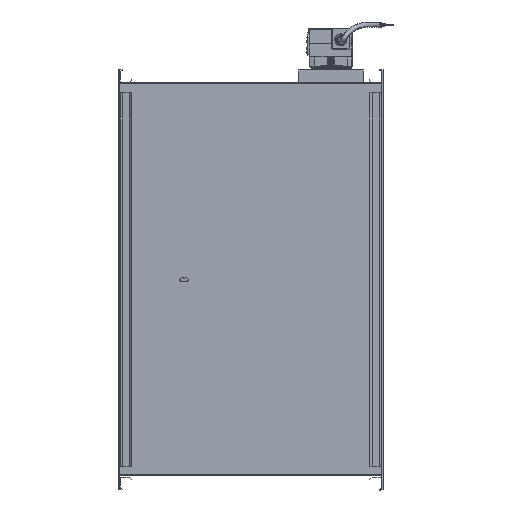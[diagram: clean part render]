
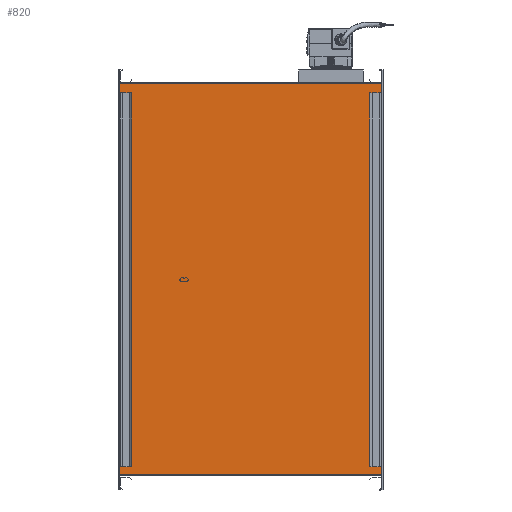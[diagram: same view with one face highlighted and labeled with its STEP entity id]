
A CAD part, front view. The second image highlights one B-rep face of the part: STEP entity #820.
In plain terms, the highlighted planar face has unit normal (0, -1, 0).
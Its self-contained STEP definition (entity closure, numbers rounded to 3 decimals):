
#820 = ADVANCED_FACE ( 'NONE', ( #22407 ), #43439, .T. ) ;
#6959 = LINE ( 'NONE', #71439, #34569 ) ;
#7671 = EDGE_CURVE ( 'NONE', #90878, #84715, #74343, .T. ) ;
#9074 = VERTEX_POINT ( 'NONE', #86261 ) ;
#11013 = DIRECTION ( 'NONE',  ( 1., 0., 0. ) ) ;
#11732 = VECTOR ( 'NONE', #29473, 1000. ) ;
#12179 = ORIENTED_EDGE ( 'NONE', *, *, #66771, .F. ) ;
#18144 = LINE ( 'NONE', #23452, #39710 ) ;
#22407 = FACE_OUTER_BOUND ( 'NONE', #26616, .T. ) ;
#23452 = CARTESIAN_POINT ( 'NONE',  ( -244.423, -285.848, 1398. ) ) ;
#25251 = VERTEX_POINT ( 'NONE', #43681 ) ;
#26616 = EDGE_LOOP ( 'NONE', ( #85821, #12179, #60420, #59096 ) ) ;
#29473 = DIRECTION ( 'NONE',  ( 0., 0., -1. ) ) ;
#32781 = EDGE_CURVE ( 'NONE', #9074, #25251, #39637, .T. ) ;
#33516 = CARTESIAN_POINT ( 'NONE',  ( 155.577, -285.848, 802. ) ) ;
#34569 = VECTOR ( 'NONE', #56635, 1000. ) ;
#36271 = CARTESIAN_POINT ( 'NONE',  ( -244.423, -285.848, 802. ) ) ;
#39637 = LINE ( 'NONE', #91286, #58821 ) ;
#39710 = VECTOR ( 'NONE', #11013, 1000. ) ;
#43439 = PLANE ( 'NONE',  #65481 ) ;
#43681 = CARTESIAN_POINT ( 'NONE',  ( -244.423, -285.848, 802. ) ) ;
#50678 = CARTESIAN_POINT ( 'NONE',  ( 155.577, -285.848, 1398. ) ) ;
#56635 = DIRECTION ( 'NONE',  ( 1., 0., 0. ) ) ;
#57294 = DIRECTION ( 'NONE',  ( 0., -1., 0. ) ) ;
#58821 = VECTOR ( 'NONE', #78341, 1000. ) ;
#59096 = ORIENTED_EDGE ( 'NONE', *, *, #78988, .T. ) ;
#60420 = ORIENTED_EDGE ( 'NONE', *, *, #32781, .T. ) ;
#65481 = AXIS2_PLACEMENT_3D ( 'NONE', #36271, #57294, #73513 ) ;
#66771 = EDGE_CURVE ( 'NONE', #9074, #90878, #18144, .T. ) ;
#71439 = CARTESIAN_POINT ( 'NONE',  ( -244.423, -285.848, 802. ) ) ;
#73513 = DIRECTION ( 'NONE',  ( -1., 0., 0. ) ) ;
#74343 = LINE ( 'NONE', #74823, #11732 ) ;
#74823 = CARTESIAN_POINT ( 'NONE',  ( 155.577, -285.848, 802. ) ) ;
#78341 = DIRECTION ( 'NONE',  ( 0., 0., -1. ) ) ;
#78988 = EDGE_CURVE ( 'NONE', #25251, #84715, #6959, .T. ) ;
#84715 = VERTEX_POINT ( 'NONE', #33516 ) ;
#85821 = ORIENTED_EDGE ( 'NONE', *, *, #7671, .F. ) ;
#86261 = CARTESIAN_POINT ( 'NONE',  ( -244.423, -285.848, 1398. ) ) ;
#90878 = VERTEX_POINT ( 'NONE', #50678 ) ;
#91286 = CARTESIAN_POINT ( 'NONE',  ( -244.423, -285.848, 802. ) ) ;
